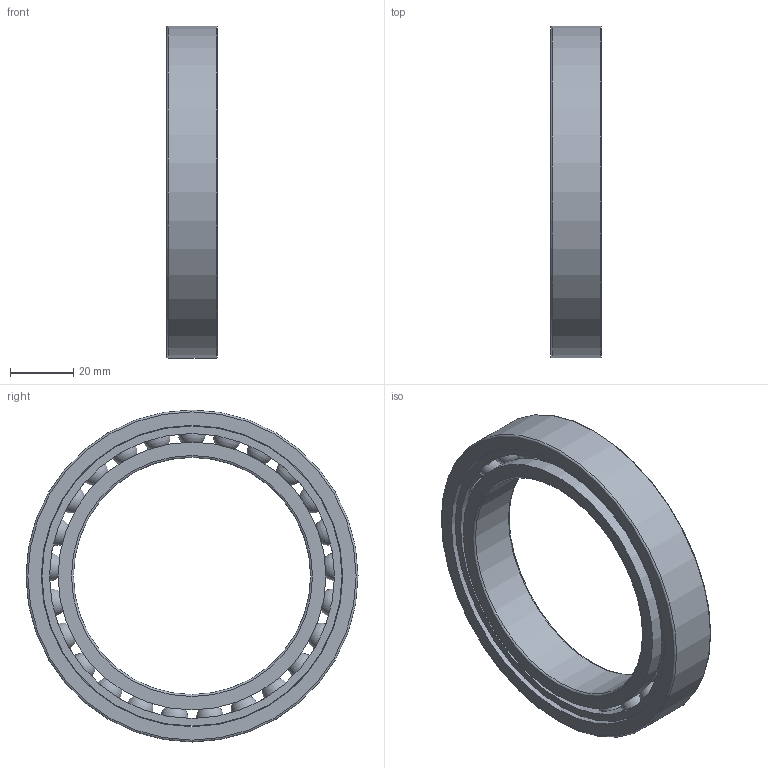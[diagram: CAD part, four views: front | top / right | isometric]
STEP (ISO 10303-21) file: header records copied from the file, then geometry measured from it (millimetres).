
FILE_DESCRIPTION(/* description */ (''),/* implementation_level */ '2;1');
FILE_NAME(/* name */ 'S_61915_TA.step',/* time_stamp */ '2013-03-06T14:48:52+01:00',/* author */ ('Marian'),/* organization */ ('GMN'),/* preprocessor_version */ 'ST-DEVELOPER v11',/* originating_system */ 'SIEMENS UGS NX 6.0',/* authorisation */ '');
FILE_SCHEMA (('CONFIG_CONTROL_DESIGN'));
Length unit declared in the file: millimetre
Products named in the file (1): S_61915_TA
Bounding box: 16 x 105 x 105 mm (x, y, z)
Volume: 50180.8 mm3; surface area: 36784.2 mm2
Topology: 28 solids, 28 shells, 70 faces, 184 edges, 120 vertices
Faces by surface type: cylinder 32, sphere 25, torus 6, plane 6, cone 1
Full cylindrical faces by diameter (mm): 8.931 x25, 75 x1, 84.7 x2, 90.111 x1, 94.9 x1, 95.3 x1, 105 x1
Entity records: 4348 total; most frequent: CARTESIAN_POINT 3086, DIRECTION 182, FACE_BOUND 165, EDGE_LOOP 140, ORIENTED_EDGE 140, VERTEX_POINT 95, AXIS2_PLACEMENT_3D 91, EDGE_CURVE 70
